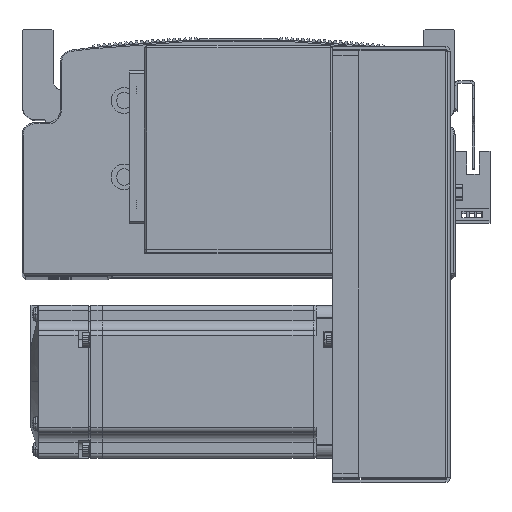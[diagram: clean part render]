
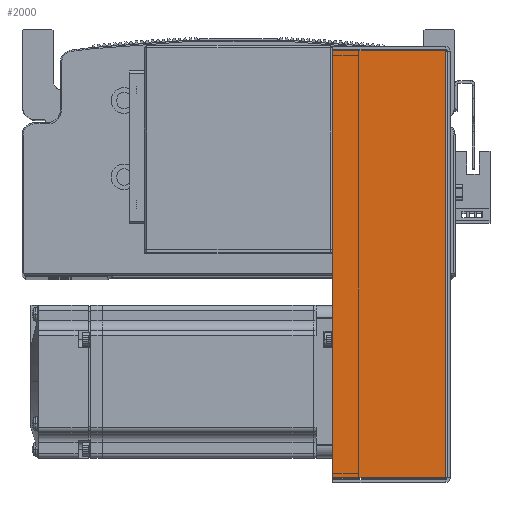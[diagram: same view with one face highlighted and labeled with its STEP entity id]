
A CAD part, top view. The second image highlights one B-rep face of the part: STEP entity #2000.
In plain terms, the highlighted planar face has unit normal (0, 0, 1) as drawn and (0, 0, -1) by its records, which use the part's own axes.
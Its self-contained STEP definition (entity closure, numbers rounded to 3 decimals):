
#2000 = ADVANCED_FACE ( 'NONE', ( #42859 ), #11034, .F. ) ;
#11032 = DIRECTION ( 'NONE',  ( 0., 0., 1. ) ) ;
#11034 = PLANE ( 'NONE',  #54532 ) ;
#11045 = DIRECTION ( 'NONE',  ( 0., -1., 0. ) ) ;
#11066 = CARTESIAN_POINT ( 'NONE',  ( 0., 0., -40.5 ) ) ;
#19119 = EDGE_LOOP ( 'NONE', ( #43803, #43820, #43813, #43819 ) ) ;
#21237 = VECTOR ( 'NONE', #40729, 1000. ) ;
#21250 = LINE ( 'NONE', #40647, #21255 ) ;
#21252 = LINE ( 'NONE', #40714, #21254 ) ;
#21254 = VECTOR ( 'NONE', #40750, 1000. ) ;
#21255 = VECTOR ( 'NONE', #40707, 1000. ) ;
#21261 = LINE ( 'NONE', #40764, #21237 ) ;
#21273 = LINE ( 'NONE', #40761, #21277 ) ;
#21277 = VECTOR ( 'NONE', #40775, 1000. ) ;
#24734 = VERTEX_POINT ( 'NONE', #45179 ) ;
#24790 = VERTEX_POINT ( 'NONE', #45143 ) ;
#24846 = VERTEX_POINT ( 'NONE', #45145 ) ;
#24914 = VERTEX_POINT ( 'NONE', #45205 ) ;
#32326 = EDGE_CURVE ( 'NONE', #24734, #24914, #21250, .T. ) ;
#32334 = EDGE_CURVE ( 'NONE', #24790, #24734, #21273, .T. ) ;
#32344 = EDGE_CURVE ( 'NONE', #24846, #24914, #21261, .T. ) ;
#32345 = EDGE_CURVE ( 'NONE', #24790, #24846, #21252, .T. ) ;
#40647 = CARTESIAN_POINT ( 'NONE',  ( 83.793, 0., -40.5 ) ) ;
#40707 = DIRECTION ( 'NONE',  ( 0., 1., 0. ) ) ;
#40714 = CARTESIAN_POINT ( 'NONE',  ( -83.793, 0., -40.5 ) ) ;
#40729 = DIRECTION ( 'NONE',  ( 1., 0., 0. ) ) ;
#40750 = DIRECTION ( 'NONE',  ( 0., 1., 0. ) ) ;
#40761 = CARTESIAN_POINT ( 'NONE',  ( 0., 0.737, -40.5 ) ) ;
#40764 = CARTESIAN_POINT ( 'NONE',  ( 84.5, 45., -40.5 ) ) ;
#40775 = DIRECTION ( 'NONE',  ( 1., 0., 0. ) ) ;
#42859 = FACE_OUTER_BOUND ( 'NONE', #19119, .T. ) ;
#43803 = ORIENTED_EDGE ( 'NONE', *, *, #32334, .F. ) ;
#43813 = ORIENTED_EDGE ( 'NONE', *, *, #32344, .T. ) ;
#43819 = ORIENTED_EDGE ( 'NONE', *, *, #32326, .F. ) ;
#43820 = ORIENTED_EDGE ( 'NONE', *, *, #32345, .T. ) ;
#45143 = CARTESIAN_POINT ( 'NONE',  ( -83.793, 0.737, -40.5 ) ) ;
#45145 = CARTESIAN_POINT ( 'NONE',  ( -83.793, 45., -40.5 ) ) ;
#45179 = CARTESIAN_POINT ( 'NONE',  ( 83.793, 0.737, -40.5 ) ) ;
#45205 = CARTESIAN_POINT ( 'NONE',  ( 83.793, 45., -40.5 ) ) ;
#54532 = AXIS2_PLACEMENT_3D ( 'NONE', #11066, #11032, #11045 ) ;
